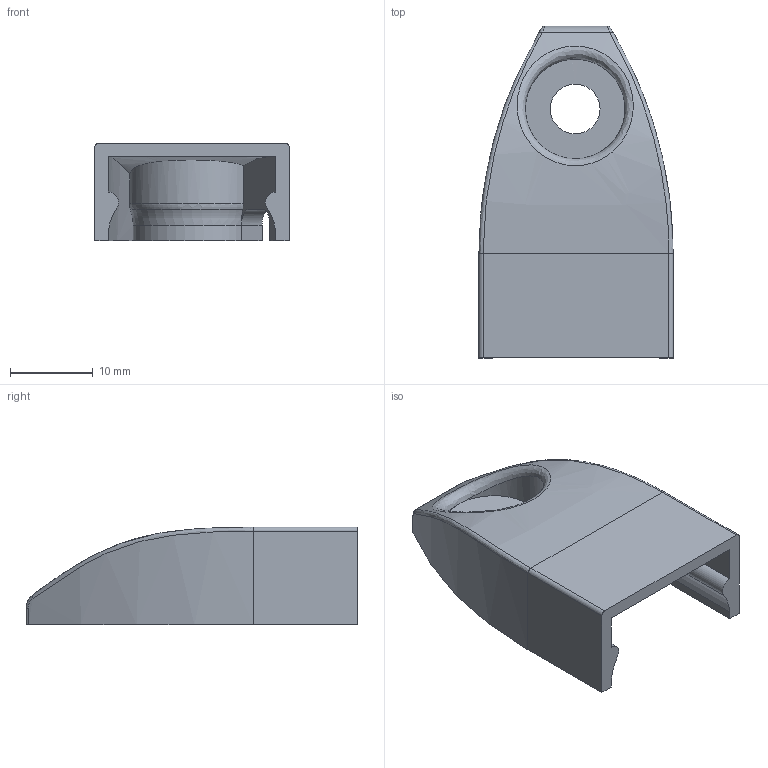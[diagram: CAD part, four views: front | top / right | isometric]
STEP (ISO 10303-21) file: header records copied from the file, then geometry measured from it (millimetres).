
FILE_DESCRIPTION(/* description */ ('Endkappe flach zu Solis in PA12 grau'),/* implementation_level */ '2;1');
FILE_NAME(/* name */ 'C:\Users\f.drexler\Desktop\FW021674_Endkappe flach zu Solis in PA12 grau.stp',/* time_stamp */ '2022-06-15T16:28:13+02:00',/* author */ ('f.drexler'),/* organization */ (''),/* preprocessor_version */ 'ST-DEVELOPER v18.1',/* originating_system */ 'Autodesk Inventor 2022',/* authorisation */ '');
FILE_SCHEMA (('AUTOMOTIVE_DESIGN { 1 0 10303 214 3 1 1 }'));
Length unit declared in the file: millimetre
Products named in the file (1): FW021674
Bounding box: 23.4 x 40 x 11.8 mm (x, y, z)
Volume: 2928.9 mm3; surface area: 3538 mm2
Topology: 1 solids, 1 shells, 57 faces, 153 edges, 100 vertices
Faces by surface type: plane 24, cylinder 21, bspline 9, torus 3
Full cylindrical faces by diameter (mm): 6 x1
Entity records: 2765 total; most frequent: CARTESIAN_POINT 1316, ORIENTED_EDGE 306, DIRECTION 260, EDGE_CURVE 153, VERTEX_POINT 100, AXIS2_PLACEMENT_3D 89, LINE 82, VECTOR 82
